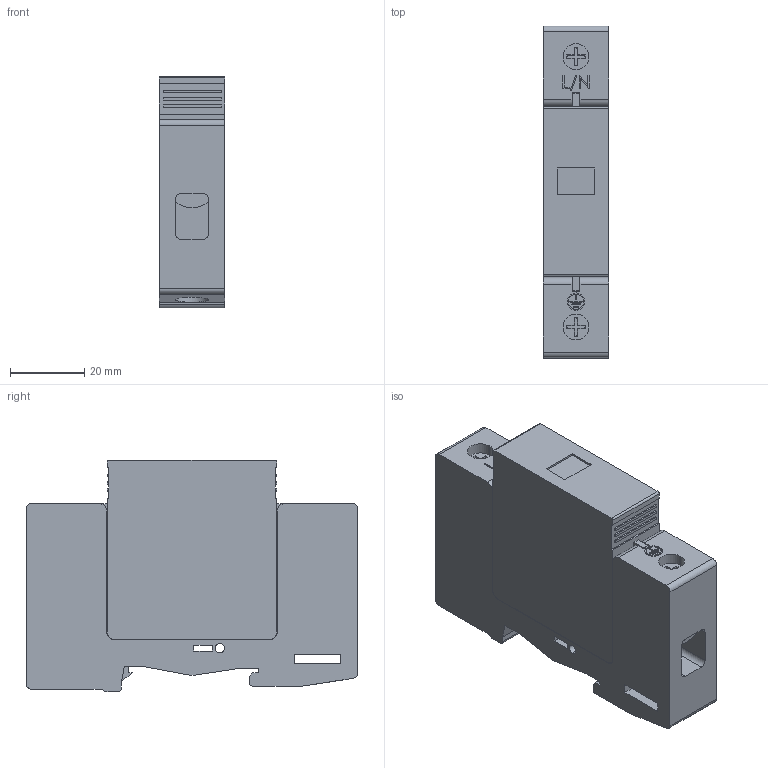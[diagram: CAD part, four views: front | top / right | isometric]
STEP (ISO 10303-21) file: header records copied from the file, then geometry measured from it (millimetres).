
FILE_DESCRIPTION (( 'STEP AP203' ), '1' );
FILE_NAME ('DPS2-20.STEP', '2018-06-20T16:28:16', ( '' ), ( '' ), 'SwSTEP 2.0', 'SolidWorks 2012', '' );
FILE_SCHEMA (( 'CONFIG_CONTROL_DESIGN' ));
Length unit declared in the file: millimetre
Products named in the file (1): DPS2-20
Bounding box: 17.8 x 89.6 x 62.6 mm (x, y, z)
Volume: 80597.9 mm3; surface area: 22706.2 mm2
Topology: 1 solids, 1 shells, 256 faces, 696 edges, 462 vertices
Faces by surface type: plane 201, cylinder 55
Entity records: 8102 total; most frequent: CARTESIAN_POINT 1424, ORIENTED_EDGE 1392, DIRECTION 1316, EDGE_CURVE 696, VECTOR 584, LINE 584, VERTEX_POINT 462, AXIS2_PLACEMENT_3D 366
